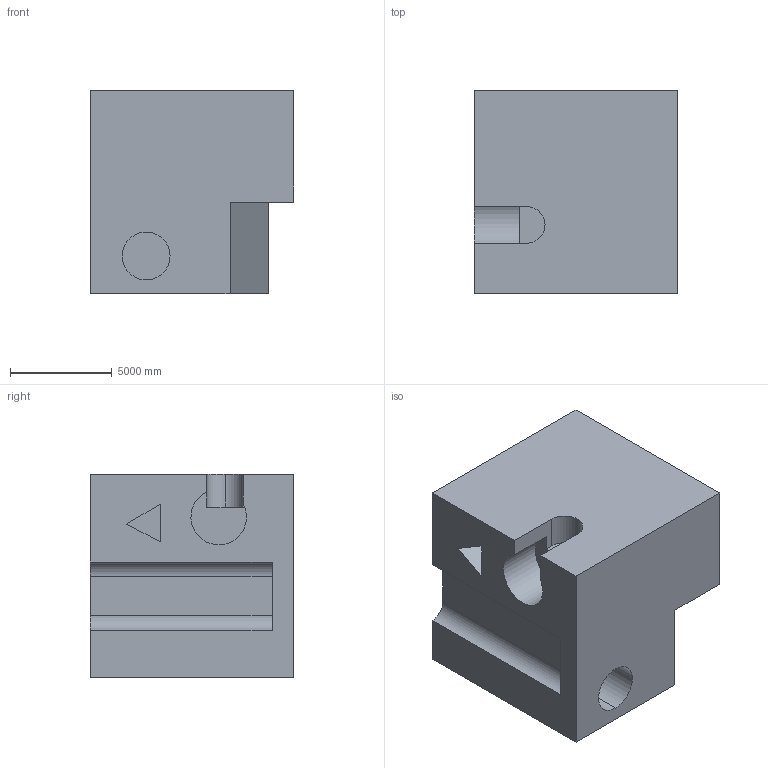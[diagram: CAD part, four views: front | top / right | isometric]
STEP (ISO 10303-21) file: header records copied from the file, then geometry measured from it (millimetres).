
FILE_DESCRIPTION (( 'STEP AP203' ), '1' );
FILE_NAME ('302.STEP', '2022-09-07T12:43:37', ( 'user' ), ( '' ), 'SwSTEP 2.0', 'SolidWorks 2021', '' );
FILE_SCHEMA (( 'CONFIG_CONTROL_DESIGN' ));
Length unit declared in the file: centimetre
Products named in the file (1): 302
Bounding box: 10000 x 10000 x 10000 mm (x, y, z)
Volume: 821536772553.8 mm3; surface area: 694394911.5 mm2
Topology: 1 solids, 1 shells, 26 faces, 66 edges, 44 vertices
Faces by surface type: plane 19, cylinder 7
Entity records: 861 total; most frequent: CARTESIAN_POINT 137, DIRECTION 134, ORIENTED_EDGE 132, EDGE_CURVE 66, VECTOR 52, LINE 52, VERTEX_POINT 44, AXIS2_PLACEMENT_3D 41
